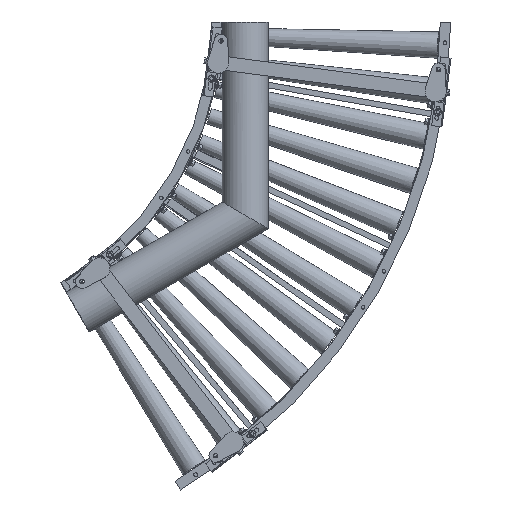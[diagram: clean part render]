
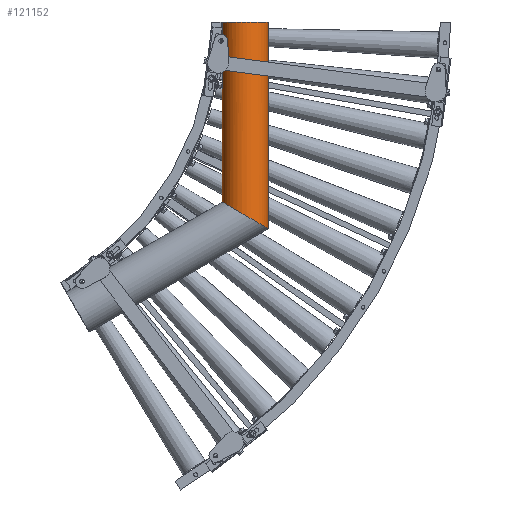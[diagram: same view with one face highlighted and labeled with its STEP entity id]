
A CAD part, front view. The second image highlights one B-rep face of the part: STEP entity #121152.
In plain terms, the highlighted cylindrical face has radius 67.024 mm (diameter 134.048 mm), a partial arc.
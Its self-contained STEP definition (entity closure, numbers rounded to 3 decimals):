
#5323 = AXIS2_PLACEMENT_3D ( 'NONE', #59219, #114387, #68645 ) ;
#8016 = CARTESIAN_POINT ( 'NONE',  ( 1018.27, -267.933, -587.899 ) ) ;
#8138 = EDGE_CURVE ( 'NONE', #99413, #47008, #44286, .T. ) ;
#23763 = CARTESIAN_POINT ( 'NONE',  ( 900.7, -166.5, 0. ) ) ;
#25920 = CARTESIAN_POINT ( 'NONE',  ( 900.7, -166.5, -520.019 ) ) ;
#26148 = VERTEX_POINT ( 'NONE', #68243 ) ;
#26443 = DIRECTION ( 'NONE',  ( 0., 0., -1. ) ) ;
#28355 = CIRCLE ( 'NONE', #5323, 67.024 ) ;
#30909 = CARTESIAN_POINT ( 'NONE',  ( 1033.3, -166.5, 0. ) ) ;
#33639 = LINE ( 'NONE', #110925, #36544 ) ;
#36544 = VECTOR ( 'NONE', #26443, 1000. ) ;
#39056 =( BOUNDED_CURVE ( )  B_SPLINE_CURVE ( 3, ( #109638, #8016, #110811, #25920 ),
 .UNSPECIFIED., .F., .T. ) 
 B_SPLINE_CURVE_WITH_KNOTS ( ( 4, 4 ),
 ( 0.147, 2.994 ),
 .UNSPECIFIED. ) 
 CURVE ( )  GEOMETRIC_REPRESENTATION_ITEM ( )  RATIONAL_B_SPLINE_CURVE ( ( 1., 0.431, 0.431, 1. ) ) 
 REPRESENTATION_ITEM ( '' )  );
#44286 = LINE ( 'NONE', #110350, #50076 ) ;
#47008 = VERTEX_POINT ( 'NONE', #106247 ) ;
#50076 = VECTOR ( 'NONE', #63744, 1000. ) ;
#52077 = DIRECTION ( 'NONE',  ( 0., 0., -1. ) ) ;
#59219 = CARTESIAN_POINT ( 'NONE',  ( 967., -156.676, 0. ) ) ;
#63744 = DIRECTION ( 'NONE',  ( 0., 0., -1. ) ) ;
#68243 = CARTESIAN_POINT ( 'NONE',  ( 900.7, -166.5, -520.019 ) ) ;
#68645 = DIRECTION ( 'NONE',  ( 1., 0., 0. ) ) ;
#70076 = DIRECTION ( 'NONE',  ( -1., 0., 0. ) ) ;
#77217 = FACE_OUTER_BOUND ( 'NONE', #107654, .T. ) ;
#78740 = CYLINDRICAL_SURFACE ( 'NONE', #83910, 67.024 ) ;
#79655 = ORIENTED_EDGE ( 'NONE', *, *, #8138, .F. ) ;
#82787 = EDGE_CURVE ( 'NONE', #47008, #26148, #39056, .T. ) ;
#83910 = AXIS2_PLACEMENT_3D ( 'NONE', #96247, #52077, #70076 ) ;
#86074 = VERTEX_POINT ( 'NONE', #23763 ) ;
#96247 = CARTESIAN_POINT ( 'NONE',  ( 967., -156.676, 0. ) ) ;
#98451 = EDGE_CURVE ( 'NONE', #86074, #26148, #33639, .T. ) ;
#99413 = VERTEX_POINT ( 'NONE', #30909 ) ;
#106247 = CARTESIAN_POINT ( 'NONE',  ( 1033.3, -166.5, -596.576 ) ) ;
#107654 = EDGE_LOOP ( 'NONE', ( #79655, #120613, #117389, #113243 ) ) ;
#109638 = CARTESIAN_POINT ( 'NONE',  ( 1033.3, -166.5, -596.576 ) ) ;
#110350 = CARTESIAN_POINT ( 'NONE',  ( 1033.3, -166.5, 0. ) ) ;
#110811 = CARTESIAN_POINT ( 'NONE',  ( 915.73, -267.933, -528.697 ) ) ;
#110925 = CARTESIAN_POINT ( 'NONE',  ( 900.7, -166.5, 0. ) ) ;
#113243 = ORIENTED_EDGE ( 'NONE', *, *, #82787, .F. ) ;
#114387 = DIRECTION ( 'NONE',  ( 0., 0., 1. ) ) ;
#117389 = ORIENTED_EDGE ( 'NONE', *, *, #98451, .T. ) ;
#118411 = EDGE_CURVE ( 'NONE', #86074, #99413, #28355, .T. ) ;
#120613 = ORIENTED_EDGE ( 'NONE', *, *, #118411, .F. ) ;
#121152 = ADVANCED_FACE ( 'NONE', ( #77217 ), #78740, .T. ) ;
